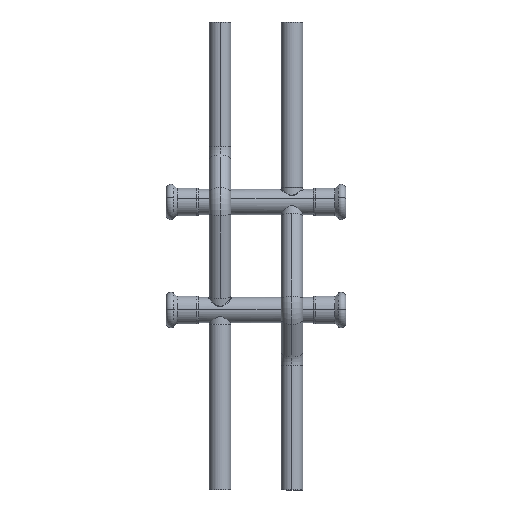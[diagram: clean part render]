
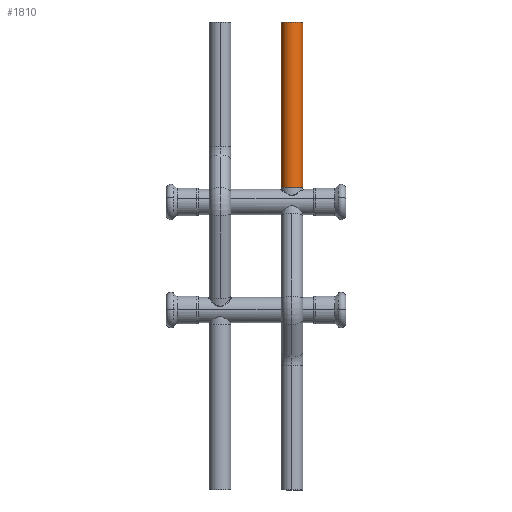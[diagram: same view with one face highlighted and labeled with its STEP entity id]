
A CAD part, front view. The second image highlights one B-rep face of the part: STEP entity #1810.
In plain terms, the highlighted cylindrical face has radius 6 mm (diameter 12 mm), a partial arc.
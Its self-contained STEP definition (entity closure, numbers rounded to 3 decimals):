
#460=CARTESIAN_POINT('',(23.,51.,4.8));
#470=VERTEX_POINT('',#460);
#500=CARTESIAN_POINT('',(29.,51.,4.8));
#510=DIRECTION('',(0.,0.,1.));
#520=DIRECTION('',(1.,0.,-0.));
#530=AXIS2_PLACEMENT_3D('',#500,#510,#520);
#540=CIRCLE('',#530,6.);
#550=CARTESIAN_POINT('',(35.,51.,4.8));
#560=VERTEX_POINT('',#550);
#690=EDGE_CURVE('',#560,#470,#540,.T.);
#1220=CARTESIAN_POINT('',(35.,51.,96.4));
#1230=VERTEX_POINT('',#1220);
#1260=CARTESIAN_POINT('',(29.,51.,96.4));
#1270=DIRECTION('',(0.,0.,1.));
#1280=DIRECTION('',(1.,0.,-0.));
#1290=AXIS2_PLACEMENT_3D('',#1260,#1270,#1280);
#1300=CIRCLE('',#1290,6.);
#1310=CARTESIAN_POINT('',(23.,51.,96.4));
#1320=VERTEX_POINT('',#1310);
#1450=EDGE_CURVE('',#1230,#1320,#1300,.T.);
#1530=CARTESIAN_POINT('',(29.,51.,0.));
#1540=DIRECTION('',(0.,0.,1.));
#1550=DIRECTION('',(1.,0.,0.));
#1560=AXIS2_PLACEMENT_3D('',#1530,#1540,#1550);
#1570=CYLINDRICAL_SURFACE('',#1560,6.);
#1580=CARTESIAN_POINT('',(35.,51.,0.));
#1590=DIRECTION('',(0.,0.,1.));
#1600=VECTOR('',#1590,1.);
#1610=LINE('',#1580,#1600);
#1620=EDGE_CURVE('',#560,#1230,#1610,.T.);
#1650=CARTESIAN_POINT('',(23.,51.,0.));
#1660=DIRECTION('',(0.,0.,1.));
#1670=VECTOR('',#1660,1.);
#1680=LINE('',#1650,#1670);
#1690=EDGE_CURVE('',#470,#1320,#1680,.T.);
#1750=ORIENTED_EDGE('',*,*,#1450,.F.);
#1760=ORIENTED_EDGE('',*,*,#1690,.T.);
#1770=ORIENTED_EDGE('',*,*,#690,.T.);
#1780=ORIENTED_EDGE('',*,*,#1620,.F.);
#1790=EDGE_LOOP('',(#1780,#1770,#1760,#1750));
#1800=FACE_OUTER_BOUND('',#1790,.T.);
#1810=ADVANCED_FACE('',(#1800),#1570,.T.);
